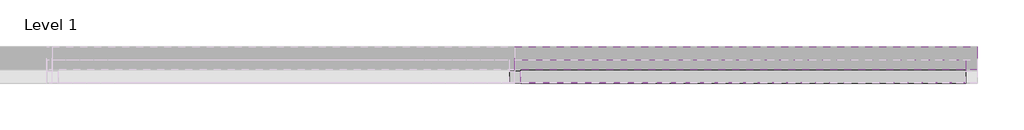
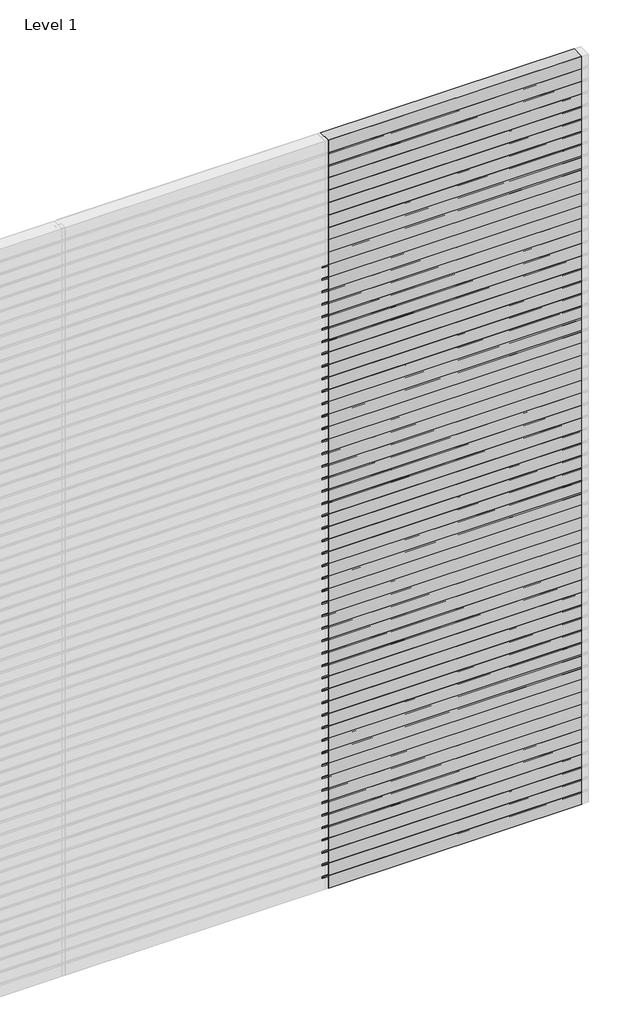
# One storey, part 5 of 6: 70 members, 60 plates.
"""IFC4 building model written with IfcOpenShell, lengths in millimetres."""

from ifc_helpers import new_model, si_unit, origin, place, context, project, spatial, transform, mapped, element, save
from components import rectangular_mullion_30cdfca6, rectangular_mullion_ae434dd9, empty_system_panel_empty_20ea7497

model = new_model("IFC4")

# Units and contexts
model_context = context("Model", 3, world=origin())
ifc_project = project(units=[si_unit("LENGTHUNIT", "METRE", prefix="MILLI")], contexts=[model_context])

# Site, building, storey
site = spatial("IfcSite", under=ifc_project)
building = spatial("IfcBuilding", under=site)
storey = spatial("IfcBuildingStorey", under=building, Name="Level 1", Elevation=0.0)

# Members
placement = place(None, origin())
rectangular_mullion_shape = rectangular_mullion_30cdfca6(model_context)
element("IfcMember", 1, ObjectType="Rectangular Mullion : RSen_21_CWM_blade - cubic 100 - 0°_gen_duco projects", at=placement, inside=storey, context=model_context, shape_type="MappedRepresentation", body=[
    mapped(rectangular_mullion_shape, transform((4000.0, 3000.0, 4000.0), x_axis=(0.0, 0.0, 1.0), y_axis=(0.0, 1.0, 0.0), z_axis=(-1.0, 0.0, 0.0))),
])
element("IfcMember", 2, ObjectType="Rectangular Mullion : RSen_21_CWM_blade - cubic 100 - 0°_gen_duco projects", at=placement, inside=storey, context=model_context, shape_type="MappedRepresentation", body=[
    mapped(rectangular_mullion_shape, transform((4000.0, 3000.0, 4100.0), x_axis=(0.0, 0.0, 1.0), y_axis=(0.0, 1.0, 0.0), z_axis=(-1.0, 0.0, 0.0))),
])
element("IfcMember", 3, ObjectType="Rectangular Mullion : RSen_21_CWM_blade - cubic 100 - 0°_gen_duco projects", at=placement, inside=storey, context=model_context, shape_type="MappedRepresentation", body=[
    mapped(rectangular_mullion_shape, transform((4000.0, 3000.0, 4200.0), x_axis=(0.0, 0.0, 1.0), y_axis=(0.0, 1.0, 0.0), z_axis=(-1.0, 0.0, 0.0))),
])
element("IfcMember", 4, ObjectType="Rectangular Mullion : RSen_21_CWM_blade - cubic 100 - 0°_gen_duco projects", at=placement, inside=storey, context=model_context, shape_type="MappedRepresentation", body=[
    mapped(rectangular_mullion_shape, transform((4000.0, 3000.0, 4300.0), x_axis=(0.0, 0.0, 1.0), y_axis=(0.0, 1.0, 0.0), z_axis=(-1.0, 0.0, 0.0))),
])
element("IfcMember", 5, ObjectType="Rectangular Mullion : RSen_21_CWM_blade - cubic 100 - 0°_gen_duco projects", at=placement, inside=storey, context=model_context, shape_type="MappedRepresentation", body=[
    mapped(rectangular_mullion_shape, transform((4000.0, 3000.0, 4400.0), x_axis=(0.0, 0.0, 1.0), y_axis=(0.0, 1.0, 0.0), z_axis=(-1.0, 0.0, 0.0))),
])
element("IfcMember", 6, ObjectType="Rectangular Mullion : RSen_21_CWM_blade - cubic 100 - 0°_gen_duco projects", at=placement, inside=storey, context=model_context, shape_type="MappedRepresentation", body=[
    mapped(rectangular_mullion_shape, transform((4000.0, 3000.0, 4500.0), x_axis=(0.0, 0.0, 1.0), y_axis=(0.0, 1.0, 0.0), z_axis=(-1.0, 0.0, 0.0))),
])
element("IfcMember", 7, ObjectType="Rectangular Mullion : RSen_21_CWM_blade - cubic 100 - 0°_gen_duco projects", at=placement, inside=storey, context=model_context, shape_type="MappedRepresentation", body=[
    mapped(rectangular_mullion_shape, transform((4000.0, 3000.0, 4600.0), x_axis=(0.0, 0.0, 1.0), y_axis=(0.0, 1.0, 0.0), z_axis=(-1.0, 0.0, 0.0))),
])
element("IfcMember", 8, ObjectType="Rectangular Mullion : RSen_21_CWM_blade - cubic 100 - 0°_gen_duco projects", at=placement, inside=storey, context=model_context, shape_type="MappedRepresentation", body=[
    mapped(rectangular_mullion_shape, transform((4000.0, 3000.0, 4700.0), x_axis=(0.0, 0.0, 1.0), y_axis=(0.0, 1.0, 0.0), z_axis=(-1.0, 0.0, 0.0))),
])
element("IfcMember", 9, ObjectType="Rectangular Mullion : RSen_21_CWM_blade - cubic 100 - 0°_gen_duco projects", at=placement, inside=storey, context=model_context, shape_type="MappedRepresentation", body=[
    mapped(rectangular_mullion_shape, transform((4000.0, 3000.0, 4800.0), x_axis=(0.0, 0.0, 1.0), y_axis=(0.0, 1.0, 0.0), z_axis=(-1.0, 0.0, 0.0))),
])
element("IfcMember", 10, ObjectType="Rectangular Mullion : RSen_21_CWM_blade - cubic 100 - 0°_gen_duco projects", at=placement, inside=storey, context=model_context, shape_type="MappedRepresentation", body=[
    mapped(rectangular_mullion_shape, transform((4000.0, 3000.0, 4900.0), x_axis=(0.0, 0.0, 1.0), y_axis=(0.0, 1.0, 0.0), z_axis=(-1.0, 0.0, 0.0))),
])
element("IfcMember", 11, ObjectType="Rectangular Mullion : RSen_21_CWM_blade - cubic 100 - 0°_gen_duco projects", at=placement, inside=storey, context=model_context, shape_type="MappedRepresentation", body=[
    mapped(rectangular_mullion_shape, transform((4000.0, 3000.0, 5000.0), x_axis=(0.0, 0.0, 1.0), y_axis=(0.0, 1.0, 0.0), z_axis=(-1.0, 0.0, 0.0))),
])
element("IfcMember", 12, ObjectType="Rectangular Mullion : RSen_21_CWM_blade - cubic 100 - 0°_gen_duco projects", at=placement, inside=storey, context=model_context, shape_type="MappedRepresentation", body=[
    mapped(rectangular_mullion_shape, transform((4000.0, 3000.0, 5100.0), x_axis=(0.0, 0.0, 1.0), y_axis=(0.0, 1.0, 0.0), z_axis=(-1.0, 0.0, 0.0))),
])
element("IfcMember", 13, ObjectType="Rectangular Mullion : RSen_21_CWM_blade - cubic 100 - 0°_gen_duco projects", at=placement, inside=storey, context=model_context, shape_type="MappedRepresentation", body=[
    mapped(rectangular_mullion_shape, transform((4000.0, 3000.0, 5200.0), x_axis=(0.0, 0.0, 1.0), y_axis=(0.0, 1.0, 0.0), z_axis=(-1.0, 0.0, 0.0))),
])
element("IfcMember", 14, ObjectType="Rectangular Mullion : RSen_21_CWM_blade - cubic 100 - 0°_gen_duco projects", at=placement, inside=storey, context=model_context, shape_type="MappedRepresentation", body=[
    mapped(rectangular_mullion_shape, transform((4000.0, 3000.0, 5300.0), x_axis=(0.0, 0.0, 1.0), y_axis=(0.0, 1.0, 0.0), z_axis=(-1.0, 0.0, 0.0))),
])
element("IfcMember", 15, ObjectType="Rectangular Mullion : RSen_21_CWM_blade - cubic 100 - 0°_gen_duco projects", at=placement, inside=storey, context=model_context, shape_type="MappedRepresentation", body=[
    mapped(rectangular_mullion_shape, transform((4000.0, 3000.0, 5400.0), x_axis=(0.0, 0.0, 1.0), y_axis=(0.0, 1.0, 0.0), z_axis=(-1.0, 0.0, 0.0))),
])
element("IfcMember", 16, ObjectType="Rectangular Mullion : RSen_21_CWM_blade - cubic 100 - 0°_gen_duco projects", at=placement, inside=storey, context=model_context, shape_type="MappedRepresentation", body=[
    mapped(rectangular_mullion_shape, transform((4000.0, 3000.0, 5500.0), x_axis=(0.0, 0.0, 1.0), y_axis=(0.0, 1.0, 0.0), z_axis=(-1.0, 0.0, 0.0))),
])
element("IfcMember", 17, ObjectType="Rectangular Mullion : RSen_21_CWM_blade - cubic 100 - 0°_gen_duco projects", at=placement, inside=storey, context=model_context, shape_type="MappedRepresentation", body=[
    mapped(rectangular_mullion_shape, transform((4000.0, 3000.0, 5600.0), x_axis=(0.0, 0.0, 1.0), y_axis=(0.0, 1.0, 0.0), z_axis=(-1.0, 0.0, 0.0))),
])
element("IfcMember", 18, ObjectType="Rectangular Mullion : RSen_21_CWM_blade - cubic 100 - 0°_gen_duco projects", at=placement, inside=storey, context=model_context, shape_type="MappedRepresentation", body=[
    mapped(rectangular_mullion_shape, transform((4000.0, 3000.0, 5700.0), x_axis=(0.0, 0.0, 1.0), y_axis=(0.0, 1.0, 0.0), z_axis=(-1.0, 0.0, 0.0))),
])
element("IfcMember", 19, ObjectType="Rectangular Mullion : RSen_21_CWM_blade - cubic 100 - 0°_gen_duco projects", at=placement, inside=storey, context=model_context, shape_type="MappedRepresentation", body=[
    mapped(rectangular_mullion_shape, transform((4000.0, 3000.0, 5800.0), x_axis=(0.0, 0.0, 1.0), y_axis=(0.0, 1.0, 0.0), z_axis=(-1.0, 0.0, 0.0))),
])
element("IfcMember", 20, ObjectType="Rectangular Mullion : RSen_21_CWM_blade - cubic 100 - 0°_gen_duco projects", at=placement, inside=storey, context=model_context, shape_type="MappedRepresentation", body=[
    mapped(rectangular_mullion_shape, transform((4000.0, 3000.0, 5900.0), x_axis=(0.0, 0.0, 1.0), y_axis=(0.0, 1.0, 0.0), z_axis=(-1.0, 0.0, 0.0))),
])
rectangular_mullion_2_shape = rectangular_mullion_ae434dd9(model_context)
element("IfcMember", 21, ObjectType="Rectangular Mullion : RSen_21_CWM_support profile 50x50_gen_duco projects", at=placement, inside=storey, context=model_context, shape_type="MappedRepresentation", body=[
    mapped(rectangular_mullion_2_shape, transform((4000.0, 3000.0, 0.0), x_axis=(-1.0, 0.0, 0.0), y_axis=(0.0, 1.0, 0.0), z_axis=(0.0, 0.0, -1.0))),
])
element("IfcMember", 22, ObjectType="Rectangular Mullion : RSen_21_CWM_support profile 50x50_gen_duco projects", at=placement, inside=storey, context=model_context, shape_type="MappedRepresentation", body=[
    mapped(rectangular_mullion_2_shape, transform((4000.0, 3000.0, 100.0), x_axis=(-1.0, 0.0, 0.0), y_axis=(0.0, 1.0, 0.0), z_axis=(0.0, 0.0, -1.0))),
])
element("IfcMember", 23, ObjectType="Rectangular Mullion : RSen_21_CWM_support profile 50x50_gen_duco projects", at=placement, inside=storey, context=model_context, shape_type="MappedRepresentation", body=[
    mapped(rectangular_mullion_2_shape, transform((4000.0, 3000.0, 200.0), x_axis=(-1.0, 0.0, 0.0), y_axis=(0.0, 1.0, 0.0), z_axis=(0.0, 0.0, -1.0))),
])
element("IfcMember", 24, ObjectType="Rectangular Mullion : RSen_21_CWM_support profile 50x50_gen_duco projects", at=placement, inside=storey, context=model_context, shape_type="MappedRepresentation", body=[
    mapped(rectangular_mullion_2_shape, transform((4000.0, 3000.0, 300.0), x_axis=(-1.0, 0.0, 0.0), y_axis=(0.0, 1.0, 0.0), z_axis=(0.0, 0.0, -1.0))),
])
element("IfcMember", 25, ObjectType="Rectangular Mullion : RSen_21_CWM_support profile 50x50_gen_duco projects", at=placement, inside=storey, context=model_context, shape_type="MappedRepresentation", body=[
    mapped(rectangular_mullion_2_shape, transform((4000.0, 3000.0, 400.0), x_axis=(-1.0, 0.0, 0.0), y_axis=(0.0, 1.0, 0.0), z_axis=(0.0, 0.0, -1.0))),
])
element("IfcMember", 26, ObjectType="Rectangular Mullion : RSen_21_CWM_support profile 50x50_gen_duco projects", at=placement, inside=storey, context=model_context, shape_type="MappedRepresentation", body=[
    mapped(rectangular_mullion_2_shape, transform((4000.0, 3000.0, 500.0), x_axis=(-1.0, 0.0, 0.0), y_axis=(0.0, 1.0, 0.0), z_axis=(0.0, 0.0, -1.0))),
])
element("IfcMember", 27, ObjectType="Rectangular Mullion : RSen_21_CWM_support profile 50x50_gen_duco projects", at=placement, inside=storey, context=model_context, shape_type="MappedRepresentation", body=[
    mapped(rectangular_mullion_2_shape, transform((4000.0, 3000.0, 600.0), x_axis=(-1.0, 0.0, 0.0), y_axis=(0.0, 1.0, 0.0), z_axis=(0.0, 0.0, -1.0))),
])
element("IfcMember", 28, ObjectType="Rectangular Mullion : RSen_21_CWM_support profile 50x50_gen_duco projects", at=placement, inside=storey, context=model_context, shape_type="MappedRepresentation", body=[
    mapped(rectangular_mullion_2_shape, transform((4000.0, 3000.0, 700.0), x_axis=(-1.0, 0.0, 0.0), y_axis=(0.0, 1.0, 0.0), z_axis=(0.0, 0.0, -1.0))),
])
element("IfcMember", 29, ObjectType="Rectangular Mullion : RSen_21_CWM_support profile 50x50_gen_duco projects", at=placement, inside=storey, context=model_context, shape_type="MappedRepresentation", body=[
    mapped(rectangular_mullion_2_shape, transform((4000.0, 3000.0, 800.0), x_axis=(-1.0, 0.0, 0.0), y_axis=(0.0, 1.0, 0.0), z_axis=(0.0, 0.0, -1.0))),
])
element("IfcMember", 30, ObjectType="Rectangular Mullion : RSen_21_CWM_support profile 50x50_gen_duco projects", at=placement, inside=storey, context=model_context, shape_type="MappedRepresentation", body=[
    mapped(rectangular_mullion_2_shape, transform((4000.0, 3000.0, 900.0), x_axis=(-1.0, 0.0, 0.0), y_axis=(0.0, 1.0, 0.0), z_axis=(0.0, 0.0, -1.0))),
])
element("IfcMember", 31, ObjectType="Rectangular Mullion : RSen_21_CWM_support profile 50x50_gen_duco projects", at=placement, inside=storey, context=model_context, shape_type="MappedRepresentation", body=[
    mapped(rectangular_mullion_2_shape, transform((4000.0, 3000.0, 1000.0), x_axis=(-1.0, 0.0, 0.0), y_axis=(0.0, 1.0, 0.0), z_axis=(0.0, 0.0, -1.0))),
])
element("IfcMember", 32, ObjectType="Rectangular Mullion : RSen_21_CWM_support profile 50x50_gen_duco projects", at=placement, inside=storey, context=model_context, shape_type="MappedRepresentation", body=[
    mapped(rectangular_mullion_2_shape, transform((4000.0, 3000.0, 1100.0), x_axis=(-1.0, 0.0, 0.0), y_axis=(0.0, 1.0, 0.0), z_axis=(0.0, 0.0, -1.0))),
])
element("IfcMember", 33, ObjectType="Rectangular Mullion : RSen_21_CWM_support profile 50x50_gen_duco projects", at=placement, inside=storey, context=model_context, shape_type="MappedRepresentation", body=[
    mapped(rectangular_mullion_2_shape, transform((4000.0, 3000.0, 1200.0), x_axis=(-1.0, 0.0, 0.0), y_axis=(0.0, 1.0, 0.0), z_axis=(0.0, 0.0, -1.0))),
])
element("IfcMember", 34, ObjectType="Rectangular Mullion : RSen_21_CWM_support profile 50x50_gen_duco projects", at=placement, inside=storey, context=model_context, shape_type="MappedRepresentation", body=[
    mapped(rectangular_mullion_2_shape, transform((4000.0, 3000.0, 1300.0), x_axis=(-1.0, 0.0, 0.0), y_axis=(0.0, 1.0, 0.0), z_axis=(0.0, 0.0, -1.0))),
])
element("IfcMember", 35, ObjectType="Rectangular Mullion : RSen_21_CWM_support profile 50x50_gen_duco projects", at=placement, inside=storey, context=model_context, shape_type="MappedRepresentation", body=[
    mapped(rectangular_mullion_2_shape, transform((4000.0, 3000.0, 1400.0), x_axis=(-1.0, 0.0, 0.0), y_axis=(0.0, 1.0, 0.0), z_axis=(0.0, 0.0, -1.0))),
])
element("IfcMember", 36, ObjectType="Rectangular Mullion : RSen_21_CWM_support profile 50x50_gen_duco projects", at=placement, inside=storey, context=model_context, shape_type="MappedRepresentation", body=[
    mapped(rectangular_mullion_2_shape, transform((4000.0, 3000.0, 1500.0), x_axis=(-1.0, 0.0, 0.0), y_axis=(0.0, 1.0, 0.0), z_axis=(0.0, 0.0, -1.0))),
])
element("IfcMember", 37, ObjectType="Rectangular Mullion : RSen_21_CWM_support profile 50x50_gen_duco projects", at=placement, inside=storey, context=model_context, shape_type="MappedRepresentation", body=[
    mapped(rectangular_mullion_2_shape, transform((4000.0, 3000.0, 1600.0), x_axis=(-1.0, 0.0, 0.0), y_axis=(0.0, 1.0, 0.0), z_axis=(0.0, 0.0, -1.0))),
])
element("IfcMember", 38, ObjectType="Rectangular Mullion : RSen_21_CWM_support profile 50x50_gen_duco projects", at=placement, inside=storey, context=model_context, shape_type="MappedRepresentation", body=[
    mapped(rectangular_mullion_2_shape, transform((4000.0, 3000.0, 1700.0), x_axis=(-1.0, 0.0, 0.0), y_axis=(0.0, 1.0, 0.0), z_axis=(0.0, 0.0, -1.0))),
])
element("IfcMember", 39, ObjectType="Rectangular Mullion : RSen_21_CWM_support profile 50x50_gen_duco projects", at=placement, inside=storey, context=model_context, shape_type="MappedRepresentation", body=[
    mapped(rectangular_mullion_2_shape, transform((4000.0, 3000.0, 1800.0), x_axis=(-1.0, 0.0, 0.0), y_axis=(0.0, 1.0, 0.0), z_axis=(0.0, 0.0, -1.0))),
])
element("IfcMember", 40, ObjectType="Rectangular Mullion : RSen_21_CWM_support profile 50x50_gen_duco projects", at=placement, inside=storey, context=model_context, shape_type="MappedRepresentation", body=[
    mapped(rectangular_mullion_2_shape, transform((4000.0, 3000.0, 1900.0), x_axis=(-1.0, 0.0, 0.0), y_axis=(0.0, 1.0, 0.0), z_axis=(0.0, 0.0, -1.0))),
])
element("IfcMember", 41, ObjectType="Rectangular Mullion : RSen_21_CWM_support profile 50x50_gen_duco projects", at=placement, inside=storey, context=model_context, shape_type="MappedRepresentation", body=[
    mapped(rectangular_mullion_2_shape, transform((4000.0, 3000.0, 2000.0), x_axis=(-1.0, 0.0, 0.0), y_axis=(0.0, 1.0, 0.0), z_axis=(0.0, 0.0, -1.0))),
])
element("IfcMember", 42, ObjectType="Rectangular Mullion : RSen_21_CWM_support profile 50x50_gen_duco projects", at=placement, inside=storey, context=model_context, shape_type="MappedRepresentation", body=[
    mapped(rectangular_mullion_2_shape, transform((4000.0, 3000.0, 2100.0), x_axis=(-1.0, 0.0, 0.0), y_axis=(0.0, 1.0, 0.0), z_axis=(0.0, 0.0, -1.0))),
])
element("IfcMember", 43, ObjectType="Rectangular Mullion : RSen_21_CWM_support profile 50x50_gen_duco projects", at=placement, inside=storey, context=model_context, shape_type="MappedRepresentation", body=[
    mapped(rectangular_mullion_2_shape, transform((4000.0, 3000.0, 2200.0), x_axis=(-1.0, 0.0, 0.0), y_axis=(0.0, 1.0, 0.0), z_axis=(0.0, 0.0, -1.0))),
])
element("IfcMember", 44, ObjectType="Rectangular Mullion : RSen_21_CWM_support profile 50x50_gen_duco projects", at=placement, inside=storey, context=model_context, shape_type="MappedRepresentation", body=[
    mapped(rectangular_mullion_2_shape, transform((4000.0, 3000.0, 2300.0), x_axis=(-1.0, 0.0, 0.0), y_axis=(0.0, 1.0, 0.0), z_axis=(0.0, 0.0, -1.0))),
])
element("IfcMember", 45, ObjectType="Rectangular Mullion : RSen_21_CWM_support profile 50x50_gen_duco projects", at=placement, inside=storey, context=model_context, shape_type="MappedRepresentation", body=[
    mapped(rectangular_mullion_2_shape, transform((4000.0, 3000.0, 2400.0), x_axis=(-1.0, 0.0, 0.0), y_axis=(0.0, 1.0, 0.0), z_axis=(0.0, 0.0, -1.0))),
])
element("IfcMember", 46, ObjectType="Rectangular Mullion : RSen_21_CWM_support profile 50x50_gen_duco projects", at=placement, inside=storey, context=model_context, shape_type="MappedRepresentation", body=[
    mapped(rectangular_mullion_2_shape, transform((4000.0, 3000.0, 2500.0), x_axis=(-1.0, 0.0, 0.0), y_axis=(0.0, 1.0, 0.0), z_axis=(0.0, 0.0, -1.0))),
])
element("IfcMember", 47, ObjectType="Rectangular Mullion : RSen_21_CWM_support profile 50x50_gen_duco projects", at=placement, inside=storey, context=model_context, shape_type="MappedRepresentation", body=[
    mapped(rectangular_mullion_2_shape, transform((4000.0, 3000.0, 2600.0), x_axis=(-1.0, 0.0, 0.0), y_axis=(0.0, 1.0, 0.0), z_axis=(0.0, 0.0, -1.0))),
])
element("IfcMember", 48, ObjectType="Rectangular Mullion : RSen_21_CWM_support profile 50x50_gen_duco projects", at=placement, inside=storey, context=model_context, shape_type="MappedRepresentation", body=[
    mapped(rectangular_mullion_2_shape, transform((4000.0, 3000.0, 2700.0), x_axis=(-1.0, 0.0, 0.0), y_axis=(0.0, 1.0, 0.0), z_axis=(0.0, 0.0, -1.0))),
])
element("IfcMember", 49, ObjectType="Rectangular Mullion : RSen_21_CWM_support profile 50x50_gen_duco projects", at=placement, inside=storey, context=model_context, shape_type="MappedRepresentation", body=[
    mapped(rectangular_mullion_2_shape, transform((4000.0, 3000.0, 2800.0), x_axis=(-1.0, 0.0, 0.0), y_axis=(0.0, 1.0, 0.0), z_axis=(0.0, 0.0, -1.0))),
])
element("IfcMember", 50, ObjectType="Rectangular Mullion : RSen_21_CWM_support profile 50x50_gen_duco projects", at=placement, inside=storey, context=model_context, shape_type="MappedRepresentation", body=[
    mapped(rectangular_mullion_2_shape, transform((4000.0, 3000.0, 2900.0), x_axis=(-1.0, 0.0, 0.0), y_axis=(0.0, 1.0, 0.0), z_axis=(0.0, 0.0, -1.0))),
])
element("IfcMember", 51, ObjectType="Rectangular Mullion : RSen_21_CWM_support profile 50x50_gen_duco projects", at=placement, inside=storey, context=model_context, shape_type="MappedRepresentation", body=[
    mapped(rectangular_mullion_2_shape, transform((4000.0, 3000.0, 3000.0), x_axis=(-1.0, 0.0, 0.0), y_axis=(0.0, 1.0, 0.0), z_axis=(0.0, 0.0, -1.0))),
])
element("IfcMember", 52, ObjectType="Rectangular Mullion : RSen_21_CWM_support profile 50x50_gen_duco projects", at=placement, inside=storey, context=model_context, shape_type="MappedRepresentation", body=[
    mapped(rectangular_mullion_2_shape, transform((4000.0, 3000.0, 3100.0), x_axis=(-1.0, 0.0, 0.0), y_axis=(0.0, 1.0, 0.0), z_axis=(0.0, 0.0, -1.0))),
])
element("IfcMember", 53, ObjectType="Rectangular Mullion : RSen_21_CWM_support profile 50x50_gen_duco projects", at=placement, inside=storey, context=model_context, shape_type="MappedRepresentation", body=[
    mapped(rectangular_mullion_2_shape, transform((4000.0, 3000.0, 3200.0), x_axis=(-1.0, 0.0, 0.0), y_axis=(0.0, 1.0, 0.0), z_axis=(0.0, 0.0, -1.0))),
])
element("IfcMember", 54, ObjectType="Rectangular Mullion : RSen_21_CWM_support profile 50x50_gen_duco projects", at=placement, inside=storey, context=model_context, shape_type="MappedRepresentation", body=[
    mapped(rectangular_mullion_2_shape, transform((4000.0, 3000.0, 3300.0), x_axis=(-1.0, 0.0, 0.0), y_axis=(0.0, 1.0, 0.0), z_axis=(0.0, 0.0, -1.0))),
])
element("IfcMember", 55, ObjectType="Rectangular Mullion : RSen_21_CWM_support profile 50x50_gen_duco projects", at=placement, inside=storey, context=model_context, shape_type="MappedRepresentation", body=[
    mapped(rectangular_mullion_2_shape, transform((4000.0, 3000.0, 3400.0), x_axis=(-1.0, 0.0, 0.0), y_axis=(0.0, 1.0, 0.0), z_axis=(0.0, 0.0, -1.0))),
])
element("IfcMember", 56, ObjectType="Rectangular Mullion : RSen_21_CWM_support profile 50x50_gen_duco projects", at=placement, inside=storey, context=model_context, shape_type="MappedRepresentation", body=[
    mapped(rectangular_mullion_2_shape, transform((4000.0, 3000.0, 3500.0), x_axis=(-1.0, 0.0, 0.0), y_axis=(0.0, 1.0, 0.0), z_axis=(0.0, 0.0, -1.0))),
])
element("IfcMember", 57, ObjectType="Rectangular Mullion : RSen_21_CWM_support profile 50x50_gen_duco projects", at=placement, inside=storey, context=model_context, shape_type="MappedRepresentation", body=[
    mapped(rectangular_mullion_2_shape, transform((4000.0, 3000.0, 3600.0), x_axis=(-1.0, 0.0, 0.0), y_axis=(0.0, 1.0, 0.0), z_axis=(0.0, 0.0, -1.0))),
])
element("IfcMember", 58, ObjectType="Rectangular Mullion : RSen_21_CWM_support profile 50x50_gen_duco projects", at=placement, inside=storey, context=model_context, shape_type="MappedRepresentation", body=[
    mapped(rectangular_mullion_2_shape, transform((4000.0, 3000.0, 3700.0), x_axis=(-1.0, 0.0, 0.0), y_axis=(0.0, 1.0, 0.0), z_axis=(0.0, 0.0, -1.0))),
])
element("IfcMember", 59, ObjectType="Rectangular Mullion : RSen_21_CWM_support profile 50x50_gen_duco projects", at=placement, inside=storey, context=model_context, shape_type="MappedRepresentation", body=[
    mapped(rectangular_mullion_2_shape, transform((4000.0, 3000.0, 3800.0), x_axis=(-1.0, 0.0, 0.0), y_axis=(0.0, 1.0, 0.0), z_axis=(0.0, 0.0, -1.0))),
])
element("IfcMember", 60, ObjectType="Rectangular Mullion : RSen_21_CWM_support profile 50x50_gen_duco projects", at=placement, inside=storey, context=model_context, shape_type="MappedRepresentation", body=[
    mapped(rectangular_mullion_2_shape, transform((4000.0, 3000.0, 3900.0), x_axis=(-1.0, 0.0, 0.0), y_axis=(0.0, 1.0, 0.0), z_axis=(0.0, 0.0, -1.0))),
])
element("IfcMember", 61, ObjectType="Rectangular Mullion : RSen_21_CWM_support profile 50x50_gen_duco projects", at=placement, inside=storey, context=model_context, shape_type="MappedRepresentation", body=[
    mapped(rectangular_mullion_2_shape, transform((4000.0, 3000.0, 4000.0), x_axis=(-1.0, 0.0, 0.0), y_axis=(0.0, 1.0, 0.0), z_axis=(0.0, 0.0, -1.0))),
])
element("IfcMember", 62, ObjectType="Rectangular Mullion : RSen_21_CWM_support profile 50x50_gen_duco projects", at=placement, inside=storey, context=model_context, shape_type="MappedRepresentation", body=[
    mapped(rectangular_mullion_2_shape, transform((4000.0, 3000.0, 4100.0), x_axis=(-1.0, 0.0, 0.0), y_axis=(0.0, 1.0, 0.0), z_axis=(0.0, 0.0, -1.0))),
])
element("IfcMember", 63, ObjectType="Rectangular Mullion : RSen_21_CWM_support profile 50x50_gen_duco projects", at=placement, inside=storey, context=model_context, shape_type="MappedRepresentation", body=[
    mapped(rectangular_mullion_2_shape, transform((4000.0, 3000.0, 4200.0), x_axis=(-1.0, 0.0, 0.0), y_axis=(0.0, 1.0, 0.0), z_axis=(0.0, 0.0, -1.0))),
])
element("IfcMember", 64, ObjectType="Rectangular Mullion : RSen_21_CWM_support profile 50x50_gen_duco projects", at=placement, inside=storey, context=model_context, shape_type="MappedRepresentation", body=[
    mapped(rectangular_mullion_2_shape, transform((4000.0, 3000.0, 4300.0), x_axis=(-1.0, 0.0, 0.0), y_axis=(0.0, 1.0, 0.0), z_axis=(0.0, 0.0, -1.0))),
])
element("IfcMember", 65, ObjectType="Rectangular Mullion : RSen_21_CWM_support profile 50x50_gen_duco projects", at=placement, inside=storey, context=model_context, shape_type="MappedRepresentation", body=[
    mapped(rectangular_mullion_2_shape, transform((4000.0, 3000.0, 4400.0), x_axis=(-1.0, 0.0, 0.0), y_axis=(0.0, 1.0, 0.0), z_axis=(0.0, 0.0, -1.0))),
])
element("IfcMember", 66, ObjectType="Rectangular Mullion : RSen_21_CWM_support profile 50x50_gen_duco projects", at=placement, inside=storey, context=model_context, shape_type="MappedRepresentation", body=[
    mapped(rectangular_mullion_2_shape, transform((4000.0, 3000.0, 4500.0), x_axis=(-1.0, 0.0, 0.0), y_axis=(0.0, 1.0, 0.0), z_axis=(0.0, 0.0, -1.0))),
])
element("IfcMember", 67, ObjectType="Rectangular Mullion : RSen_21_CWM_support profile 50x50_gen_duco projects", at=placement, inside=storey, context=model_context, shape_type="MappedRepresentation", body=[
    mapped(rectangular_mullion_2_shape, transform((4000.0, 3000.0, 4600.0), x_axis=(-1.0, 0.0, 0.0), y_axis=(0.0, 1.0, 0.0), z_axis=(0.0, 0.0, -1.0))),
])
element("IfcMember", 68, ObjectType="Rectangular Mullion : RSen_21_CWM_support profile 50x50_gen_duco projects", at=placement, inside=storey, context=model_context, shape_type="MappedRepresentation", body=[
    mapped(rectangular_mullion_2_shape, transform((4000.0, 3000.0, 4700.0), x_axis=(-1.0, 0.0, 0.0), y_axis=(0.0, 1.0, 0.0), z_axis=(0.0, 0.0, -1.0))),
])
element("IfcMember", 69, ObjectType="Rectangular Mullion : RSen_21_CWM_support profile 50x50_gen_duco projects", at=placement, inside=storey, context=model_context, shape_type="MappedRepresentation", body=[
    mapped(rectangular_mullion_2_shape, transform((4000.0, 3000.0, 4800.0), x_axis=(-1.0, 0.0, 0.0), y_axis=(0.0, 1.0, 0.0), z_axis=(0.0, 0.0, -1.0))),
])
element("IfcMember", 70, ObjectType="Rectangular Mullion : RSen_21_CWM_support profile 50x50_gen_duco projects", at=placement, inside=storey, context=model_context, shape_type="MappedRepresentation", body=[
    mapped(rectangular_mullion_2_shape, transform((4000.0, 3000.0, 4900.0), x_axis=(-1.0, 0.0, 0.0), y_axis=(0.0, 1.0, 0.0), z_axis=(0.0, 0.0, -1.0))),
])

# Plates
empty_system_panel_empty_shape = empty_system_panel_empty_20ea7497(model_context)
element("IfcPlate", 71, ObjectType="Empty System Panel : Empty", at=placement, inside=storey, context=model_context, shape_type="MappedRepresentation", body=[
    mapped(empty_system_panel_empty_shape, transform((4987.5, 3000.0, 0.0), x_axis=(-1.0, 0.0, 0.0), y_axis=(0.0, -1.0, 0.0), z_axis=(0.0, 0.0, 1.0))),
])
element("IfcPlate", 72, ObjectType="Empty System Panel : Empty", at=placement, inside=storey, context=model_context, shape_type="MappedRepresentation", body=[
    mapped(empty_system_panel_empty_shape, transform((4987.5, 3000.0, 100.0), x_axis=(-1.0, 0.0, 0.0), y_axis=(0.0, -1.0, 0.0), z_axis=(0.0, 0.0, 1.0))),
])
element("IfcPlate", 73, ObjectType="Empty System Panel : Empty", at=placement, inside=storey, context=model_context, shape_type="MappedRepresentation", body=[
    mapped(empty_system_panel_empty_shape, transform((4987.5, 3000.0, 200.0), x_axis=(-1.0, 0.0, 0.0), y_axis=(0.0, -1.0, 0.0), z_axis=(0.0, 0.0, 1.0))),
])
element("IfcPlate", 74, ObjectType="Empty System Panel : Empty", at=placement, inside=storey, context=model_context, shape_type="MappedRepresentation", body=[
    mapped(empty_system_panel_empty_shape, transform((4987.5, 3000.0, 300.0), x_axis=(-1.0, 0.0, 0.0), y_axis=(0.0, -1.0, 0.0), z_axis=(0.0, 0.0, 1.0))),
])
element("IfcPlate", 75, ObjectType="Empty System Panel : Empty", at=placement, inside=storey, context=model_context, shape_type="MappedRepresentation", body=[
    mapped(empty_system_panel_empty_shape, transform((4987.5, 3000.0, 400.0), x_axis=(-1.0, 0.0, 0.0), y_axis=(0.0, -1.0, 0.0), z_axis=(0.0, 0.0, 1.0))),
])
element("IfcPlate", 76, ObjectType="Empty System Panel : Empty", at=placement, inside=storey, context=model_context, shape_type="MappedRepresentation", body=[
    mapped(empty_system_panel_empty_shape, transform((4987.5, 3000.0, 500.0), x_axis=(-1.0, 0.0, 0.0), y_axis=(0.0, -1.0, 0.0), z_axis=(0.0, 0.0, 1.0))),
])
element("IfcPlate", 77, ObjectType="Empty System Panel : Empty", at=placement, inside=storey, context=model_context, shape_type="MappedRepresentation", body=[
    mapped(empty_system_panel_empty_shape, transform((4987.5, 3000.0, 600.0), x_axis=(-1.0, 0.0, 0.0), y_axis=(0.0, -1.0, 0.0), z_axis=(0.0, 0.0, 1.0))),
])
element("IfcPlate", 78, ObjectType="Empty System Panel : Empty", at=placement, inside=storey, context=model_context, shape_type="MappedRepresentation", body=[
    mapped(empty_system_panel_empty_shape, transform((4987.5, 3000.0, 700.0), x_axis=(-1.0, 0.0, 0.0), y_axis=(0.0, -1.0, 0.0), z_axis=(0.0, 0.0, 1.0))),
])
element("IfcPlate", 79, ObjectType="Empty System Panel : Empty", at=placement, inside=storey, context=model_context, shape_type="MappedRepresentation", body=[
    mapped(empty_system_panel_empty_shape, transform((4987.5, 3000.0, 800.0), x_axis=(-1.0, 0.0, 0.0), y_axis=(0.0, -1.0, 0.0), z_axis=(0.0, 0.0, 1.0))),
])
element("IfcPlate", 80, ObjectType="Empty System Panel : Empty", at=placement, inside=storey, context=model_context, shape_type="MappedRepresentation", body=[
    mapped(empty_system_panel_empty_shape, transform((4987.5, 3000.0, 900.0), x_axis=(-1.0, 0.0, 0.0), y_axis=(0.0, -1.0, 0.0), z_axis=(0.0, 0.0, 1.0))),
])
element("IfcPlate", 81, ObjectType="Empty System Panel : Empty", at=placement, inside=storey, context=model_context, shape_type="MappedRepresentation", body=[
    mapped(empty_system_panel_empty_shape, transform((4987.5, 3000.0, 1000.0), x_axis=(-1.0, 0.0, 0.0), y_axis=(0.0, -1.0, 0.0), z_axis=(0.0, 0.0, 1.0))),
])
element("IfcPlate", 82, ObjectType="Empty System Panel : Empty", at=placement, inside=storey, context=model_context, shape_type="MappedRepresentation", body=[
    mapped(empty_system_panel_empty_shape, transform((4987.5, 3000.0, 1100.0), x_axis=(-1.0, 0.0, 0.0), y_axis=(0.0, -1.0, 0.0), z_axis=(0.0, 0.0, 1.0))),
])
element("IfcPlate", 83, ObjectType="Empty System Panel : Empty", at=placement, inside=storey, context=model_context, shape_type="MappedRepresentation", body=[
    mapped(empty_system_panel_empty_shape, transform((4987.5, 3000.0, 1200.0), x_axis=(-1.0, 0.0, 0.0), y_axis=(0.0, -1.0, 0.0), z_axis=(0.0, 0.0, 1.0))),
])
element("IfcPlate", 84, ObjectType="Empty System Panel : Empty", at=placement, inside=storey, context=model_context, shape_type="MappedRepresentation", body=[
    mapped(empty_system_panel_empty_shape, transform((4987.5, 3000.0, 1300.0), x_axis=(-1.0, 0.0, 0.0), y_axis=(0.0, -1.0, 0.0), z_axis=(0.0, 0.0, 1.0))),
])
element("IfcPlate", 85, ObjectType="Empty System Panel : Empty", at=placement, inside=storey, context=model_context, shape_type="MappedRepresentation", body=[
    mapped(empty_system_panel_empty_shape, transform((4987.5, 3000.0, 1400.0), x_axis=(-1.0, 0.0, 0.0), y_axis=(0.0, -1.0, 0.0), z_axis=(0.0, 0.0, 1.0))),
])
element("IfcPlate", 86, ObjectType="Empty System Panel : Empty", at=placement, inside=storey, context=model_context, shape_type="MappedRepresentation", body=[
    mapped(empty_system_panel_empty_shape, transform((4987.5, 3000.0, 1500.0), x_axis=(-1.0, 0.0, 0.0), y_axis=(0.0, -1.0, 0.0), z_axis=(0.0, 0.0, 1.0))),
])
element("IfcPlate", 87, ObjectType="Empty System Panel : Empty", at=placement, inside=storey, context=model_context, shape_type="MappedRepresentation", body=[
    mapped(empty_system_panel_empty_shape, transform((4987.5, 3000.0, 1600.0), x_axis=(-1.0, 0.0, 0.0), y_axis=(0.0, -1.0, 0.0), z_axis=(0.0, 0.0, 1.0))),
])
element("IfcPlate", 88, ObjectType="Empty System Panel : Empty", at=placement, inside=storey, context=model_context, shape_type="MappedRepresentation", body=[
    mapped(empty_system_panel_empty_shape, transform((4987.5, 3000.0, 1700.0), x_axis=(-1.0, 0.0, 0.0), y_axis=(0.0, -1.0, 0.0), z_axis=(0.0, 0.0, 1.0))),
])
element("IfcPlate", 89, ObjectType="Empty System Panel : Empty", at=placement, inside=storey, context=model_context, shape_type="MappedRepresentation", body=[
    mapped(empty_system_panel_empty_shape, transform((4987.5, 3000.0, 1800.0), x_axis=(-1.0, 0.0, 0.0), y_axis=(0.0, -1.0, 0.0), z_axis=(0.0, 0.0, 1.0))),
])
element("IfcPlate", 90, ObjectType="Empty System Panel : Empty", at=placement, inside=storey, context=model_context, shape_type="MappedRepresentation", body=[
    mapped(empty_system_panel_empty_shape, transform((4987.5, 3000.0, 1900.0), x_axis=(-1.0, 0.0, 0.0), y_axis=(0.0, -1.0, 0.0), z_axis=(0.0, 0.0, 1.0))),
])
element("IfcPlate", 91, ObjectType="Empty System Panel : Empty", at=placement, inside=storey, context=model_context, shape_type="MappedRepresentation", body=[
    mapped(empty_system_panel_empty_shape, transform((4987.5, 3000.0, 2000.0), x_axis=(-1.0, 0.0, 0.0), y_axis=(0.0, -1.0, 0.0), z_axis=(0.0, 0.0, 1.0))),
])
element("IfcPlate", 92, ObjectType="Empty System Panel : Empty", at=placement, inside=storey, context=model_context, shape_type="MappedRepresentation", body=[
    mapped(empty_system_panel_empty_shape, transform((4987.5, 3000.0, 2100.0), x_axis=(-1.0, 0.0, 0.0), y_axis=(0.0, -1.0, 0.0), z_axis=(0.0, 0.0, 1.0))),
])
element("IfcPlate", 93, ObjectType="Empty System Panel : Empty", at=placement, inside=storey, context=model_context, shape_type="MappedRepresentation", body=[
    mapped(empty_system_panel_empty_shape, transform((4987.5, 3000.0, 2200.0), x_axis=(-1.0, 0.0, 0.0), y_axis=(0.0, -1.0, 0.0), z_axis=(0.0, 0.0, 1.0))),
])
element("IfcPlate", 94, ObjectType="Empty System Panel : Empty", at=placement, inside=storey, context=model_context, shape_type="MappedRepresentation", body=[
    mapped(empty_system_panel_empty_shape, transform((4987.5, 3000.0, 2300.0), x_axis=(-1.0, 0.0, 0.0), y_axis=(0.0, -1.0, 0.0), z_axis=(0.0, 0.0, 1.0))),
])
element("IfcPlate", 95, ObjectType="Empty System Panel : Empty", at=placement, inside=storey, context=model_context, shape_type="MappedRepresentation", body=[
    mapped(empty_system_panel_empty_shape, transform((4987.5, 3000.0, 2400.0), x_axis=(-1.0, 0.0, 0.0), y_axis=(0.0, -1.0, 0.0), z_axis=(0.0, 0.0, 1.0))),
])
element("IfcPlate", 96, ObjectType="Empty System Panel : Empty", at=placement, inside=storey, context=model_context, shape_type="MappedRepresentation", body=[
    mapped(empty_system_panel_empty_shape, transform((4987.5, 3000.0, 2500.0), x_axis=(-1.0, 0.0, 0.0), y_axis=(0.0, -1.0, 0.0), z_axis=(0.0, 0.0, 1.0))),
])
element("IfcPlate", 97, ObjectType="Empty System Panel : Empty", at=placement, inside=storey, context=model_context, shape_type="MappedRepresentation", body=[
    mapped(empty_system_panel_empty_shape, transform((4987.5, 3000.0, 2600.0), x_axis=(-1.0, 0.0, 0.0), y_axis=(0.0, -1.0, 0.0), z_axis=(0.0, 0.0, 1.0))),
])
element("IfcPlate", 98, ObjectType="Empty System Panel : Empty", at=placement, inside=storey, context=model_context, shape_type="MappedRepresentation", body=[
    mapped(empty_system_panel_empty_shape, transform((4987.5, 3000.0, 2700.0), x_axis=(-1.0, 0.0, 0.0), y_axis=(0.0, -1.0, 0.0), z_axis=(0.0, 0.0, 1.0))),
])
element("IfcPlate", 99, ObjectType="Empty System Panel : Empty", at=placement, inside=storey, context=model_context, shape_type="MappedRepresentation", body=[
    mapped(empty_system_panel_empty_shape, transform((4987.5, 3000.0, 2800.0), x_axis=(-1.0, 0.0, 0.0), y_axis=(0.0, -1.0, 0.0), z_axis=(0.0, 0.0, 1.0))),
])
element("IfcPlate", 100, ObjectType="Empty System Panel : Empty", at=placement, inside=storey, context=model_context, shape_type="MappedRepresentation", body=[
    mapped(empty_system_panel_empty_shape, transform((4987.5, 3000.0, 2900.0), x_axis=(-1.0, 0.0, 0.0), y_axis=(0.0, -1.0, 0.0), z_axis=(0.0, 0.0, 1.0))),
])
element("IfcPlate", 101, ObjectType="Empty System Panel : Empty", at=placement, inside=storey, context=model_context, shape_type="MappedRepresentation", body=[
    mapped(empty_system_panel_empty_shape, transform((4987.5, 3000.0, 3000.0), x_axis=(-1.0, 0.0, 0.0), y_axis=(0.0, -1.0, 0.0), z_axis=(0.0, 0.0, 1.0))),
])
element("IfcPlate", 102, ObjectType="Empty System Panel : Empty", at=placement, inside=storey, context=model_context, shape_type="MappedRepresentation", body=[
    mapped(empty_system_panel_empty_shape, transform((4987.5, 3000.0, 3100.0), x_axis=(-1.0, 0.0, 0.0), y_axis=(0.0, -1.0, 0.0), z_axis=(0.0, 0.0, 1.0))),
])
element("IfcPlate", 103, ObjectType="Empty System Panel : Empty", at=placement, inside=storey, context=model_context, shape_type="MappedRepresentation", body=[
    mapped(empty_system_panel_empty_shape, transform((4987.5, 3000.0, 3200.0), x_axis=(-1.0, 0.0, 0.0), y_axis=(0.0, -1.0, 0.0), z_axis=(0.0, 0.0, 1.0))),
])
element("IfcPlate", 104, ObjectType="Empty System Panel : Empty", at=placement, inside=storey, context=model_context, shape_type="MappedRepresentation", body=[
    mapped(empty_system_panel_empty_shape, transform((4987.5, 3000.0, 3300.0), x_axis=(-1.0, 0.0, 0.0), y_axis=(0.0, -1.0, 0.0), z_axis=(0.0, 0.0, 1.0))),
])
element("IfcPlate", 105, ObjectType="Empty System Panel : Empty", at=placement, inside=storey, context=model_context, shape_type="MappedRepresentation", body=[
    mapped(empty_system_panel_empty_shape, transform((4987.5, 3000.0, 3400.0), x_axis=(-1.0, 0.0, 0.0), y_axis=(0.0, -1.0, 0.0), z_axis=(0.0, 0.0, 1.0))),
])
element("IfcPlate", 106, ObjectType="Empty System Panel : Empty", at=placement, inside=storey, context=model_context, shape_type="MappedRepresentation", body=[
    mapped(empty_system_panel_empty_shape, transform((4987.5, 3000.0, 3500.0), x_axis=(-1.0, 0.0, 0.0), y_axis=(0.0, -1.0, 0.0), z_axis=(0.0, 0.0, 1.0))),
])
element("IfcPlate", 107, ObjectType="Empty System Panel : Empty", at=placement, inside=storey, context=model_context, shape_type="MappedRepresentation", body=[
    mapped(empty_system_panel_empty_shape, transform((4987.5, 3000.0, 3600.0), x_axis=(-1.0, 0.0, 0.0), y_axis=(0.0, -1.0, 0.0), z_axis=(0.0, 0.0, 1.0))),
])
element("IfcPlate", 108, ObjectType="Empty System Panel : Empty", at=placement, inside=storey, context=model_context, shape_type="MappedRepresentation", body=[
    mapped(empty_system_panel_empty_shape, transform((4987.5, 3000.0, 3700.0), x_axis=(-1.0, 0.0, 0.0), y_axis=(0.0, -1.0, 0.0), z_axis=(0.0, 0.0, 1.0))),
])
element("IfcPlate", 109, ObjectType="Empty System Panel : Empty", at=placement, inside=storey, context=model_context, shape_type="MappedRepresentation", body=[
    mapped(empty_system_panel_empty_shape, transform((4987.5, 3000.0, 3800.0), x_axis=(-1.0, 0.0, 0.0), y_axis=(0.0, -1.0, 0.0), z_axis=(0.0, 0.0, 1.0))),
])
element("IfcPlate", 110, ObjectType="Empty System Panel : Empty", at=placement, inside=storey, context=model_context, shape_type="MappedRepresentation", body=[
    mapped(empty_system_panel_empty_shape, transform((4987.5, 3000.0, 3900.0), x_axis=(-1.0, 0.0, 0.0), y_axis=(0.0, -1.0, 0.0), z_axis=(0.0, 0.0, 1.0))),
])
element("IfcPlate", 111, ObjectType="Empty System Panel : Empty", at=placement, inside=storey, context=model_context, shape_type="MappedRepresentation", body=[
    mapped(empty_system_panel_empty_shape, transform((4987.5, 3000.0, 4000.0), x_axis=(-1.0, 0.0, 0.0), y_axis=(0.0, -1.0, 0.0), z_axis=(0.0, 0.0, 1.0))),
])
element("IfcPlate", 112, ObjectType="Empty System Panel : Empty", at=placement, inside=storey, context=model_context, shape_type="MappedRepresentation", body=[
    mapped(empty_system_panel_empty_shape, transform((4987.5, 3000.0, 4100.0), x_axis=(-1.0, 0.0, 0.0), y_axis=(0.0, -1.0, 0.0), z_axis=(0.0, 0.0, 1.0))),
])
element("IfcPlate", 113, ObjectType="Empty System Panel : Empty", at=placement, inside=storey, context=model_context, shape_type="MappedRepresentation", body=[
    mapped(empty_system_panel_empty_shape, transform((4987.5, 3000.0, 4200.0), x_axis=(-1.0, 0.0, 0.0), y_axis=(0.0, -1.0, 0.0), z_axis=(0.0, 0.0, 1.0))),
])
element("IfcPlate", 114, ObjectType="Empty System Panel : Empty", at=placement, inside=storey, context=model_context, shape_type="MappedRepresentation", body=[
    mapped(empty_system_panel_empty_shape, transform((4987.5, 3000.0, 4300.0), x_axis=(-1.0, 0.0, 0.0), y_axis=(0.0, -1.0, 0.0), z_axis=(0.0, 0.0, 1.0))),
])
element("IfcPlate", 115, ObjectType="Empty System Panel : Empty", at=placement, inside=storey, context=model_context, shape_type="MappedRepresentation", body=[
    mapped(empty_system_panel_empty_shape, transform((4987.5, 3000.0, 4400.0), x_axis=(-1.0, 0.0, 0.0), y_axis=(0.0, -1.0, 0.0), z_axis=(0.0, 0.0, 1.0))),
])
element("IfcPlate", 116, ObjectType="Empty System Panel : Empty", at=placement, inside=storey, context=model_context, shape_type="MappedRepresentation", body=[
    mapped(empty_system_panel_empty_shape, transform((4987.5, 3000.0, 4500.0), x_axis=(-1.0, 0.0, 0.0), y_axis=(0.0, -1.0, 0.0), z_axis=(0.0, 0.0, 1.0))),
])
element("IfcPlate", 117, ObjectType="Empty System Panel : Empty", at=placement, inside=storey, context=model_context, shape_type="MappedRepresentation", body=[
    mapped(empty_system_panel_empty_shape, transform((4987.5, 3000.0, 4600.0), x_axis=(-1.0, 0.0, 0.0), y_axis=(0.0, -1.0, 0.0), z_axis=(0.0, 0.0, 1.0))),
])
element("IfcPlate", 118, ObjectType="Empty System Panel : Empty", at=placement, inside=storey, context=model_context, shape_type="MappedRepresentation", body=[
    mapped(empty_system_panel_empty_shape, transform((4987.5, 3000.0, 4700.0), x_axis=(-1.0, 0.0, 0.0), y_axis=(0.0, -1.0, 0.0), z_axis=(0.0, 0.0, 1.0))),
])
element("IfcPlate", 119, ObjectType="Empty System Panel : Empty", at=placement, inside=storey, context=model_context, shape_type="MappedRepresentation", body=[
    mapped(empty_system_panel_empty_shape, transform((4987.5, 3000.0, 4800.0), x_axis=(-1.0, 0.0, 0.0), y_axis=(0.0, -1.0, 0.0), z_axis=(0.0, 0.0, 1.0))),
])
element("IfcPlate", 120, ObjectType="Empty System Panel : Empty", at=placement, inside=storey, context=model_context, shape_type="MappedRepresentation", body=[
    mapped(empty_system_panel_empty_shape, transform((4987.5, 3000.0, 4900.0), x_axis=(-1.0, 0.0, 0.0), y_axis=(0.0, -1.0, 0.0), z_axis=(0.0, 0.0, 1.0))),
])
element("IfcPlate", 121, ObjectType="Empty System Panel : Empty", at=placement, inside=storey, context=model_context, shape_type="MappedRepresentation", body=[
    mapped(empty_system_panel_empty_shape, transform((4987.5, 3000.0, 5000.0), x_axis=(-1.0, 0.0, 0.0), y_axis=(0.0, -1.0, 0.0), z_axis=(0.0, 0.0, 1.0))),
])
element("IfcPlate", 122, ObjectType="Empty System Panel : Empty", at=placement, inside=storey, context=model_context, shape_type="MappedRepresentation", body=[
    mapped(empty_system_panel_empty_shape, transform((4987.5, 3000.0, 5100.0), x_axis=(-1.0, 0.0, 0.0), y_axis=(0.0, -1.0, 0.0), z_axis=(0.0, 0.0, 1.0))),
])
element("IfcPlate", 123, ObjectType="Empty System Panel : Empty", at=placement, inside=storey, context=model_context, shape_type="MappedRepresentation", body=[
    mapped(empty_system_panel_empty_shape, transform((4987.5, 3000.0, 5200.0), x_axis=(-1.0, 0.0, 0.0), y_axis=(0.0, -1.0, 0.0), z_axis=(0.0, 0.0, 1.0))),
])
element("IfcPlate", 124, ObjectType="Empty System Panel : Empty", at=placement, inside=storey, context=model_context, shape_type="MappedRepresentation", body=[
    mapped(empty_system_panel_empty_shape, transform((4987.5, 3000.0, 5300.0), x_axis=(-1.0, 0.0, 0.0), y_axis=(0.0, -1.0, 0.0), z_axis=(0.0, 0.0, 1.0))),
])
element("IfcPlate", 125, ObjectType="Empty System Panel : Empty", at=placement, inside=storey, context=model_context, shape_type="MappedRepresentation", body=[
    mapped(empty_system_panel_empty_shape, transform((4987.5, 3000.0, 5400.0), x_axis=(-1.0, 0.0, 0.0), y_axis=(0.0, -1.0, 0.0), z_axis=(0.0, 0.0, 1.0))),
])
element("IfcPlate", 126, ObjectType="Empty System Panel : Empty", at=placement, inside=storey, context=model_context, shape_type="MappedRepresentation", body=[
    mapped(empty_system_panel_empty_shape, transform((4987.5, 3000.0, 5500.0), x_axis=(-1.0, 0.0, 0.0), y_axis=(0.0, -1.0, 0.0), z_axis=(0.0, 0.0, 1.0))),
])
element("IfcPlate", 127, ObjectType="Empty System Panel : Empty", at=placement, inside=storey, context=model_context, shape_type="MappedRepresentation", body=[
    mapped(empty_system_panel_empty_shape, transform((4987.5, 3000.0, 5600.0), x_axis=(-1.0, 0.0, 0.0), y_axis=(0.0, -1.0, 0.0), z_axis=(0.0, 0.0, 1.0))),
])
element("IfcPlate", 128, ObjectType="Empty System Panel : Empty", at=placement, inside=storey, context=model_context, shape_type="MappedRepresentation", body=[
    mapped(empty_system_panel_empty_shape, transform((4987.5, 3000.0, 5700.0), x_axis=(-1.0, 0.0, 0.0), y_axis=(0.0, -1.0, 0.0), z_axis=(0.0, 0.0, 1.0))),
])
element("IfcPlate", 129, ObjectType="Empty System Panel : Empty", at=placement, inside=storey, context=model_context, shape_type="MappedRepresentation", body=[
    mapped(empty_system_panel_empty_shape, transform((4987.5, 3000.0, 5800.0), x_axis=(-1.0, 0.0, 0.0), y_axis=(0.0, -1.0, 0.0), z_axis=(0.0, 0.0, 1.0))),
])
element("IfcPlate", 130, ObjectType="Empty System Panel : Empty", at=placement, inside=storey, context=model_context, shape_type="MappedRepresentation", body=[
    mapped(empty_system_panel_empty_shape, transform((4987.5, 3000.0, 5900.0), x_axis=(-1.0, 0.0, 0.0), y_axis=(0.0, -1.0, 0.0), z_axis=(0.0, 0.0, 1.0))),
])

save(model, "model.ifc")
